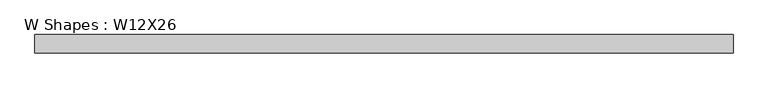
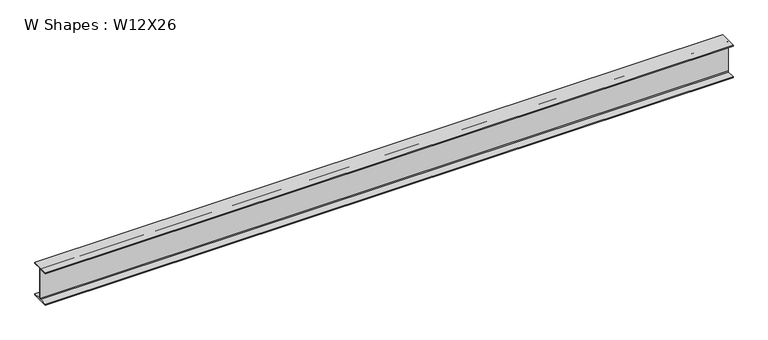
"""IFC4 building model written with IfcOpenShell, lengths in millimetres: beam geometry, W Shapes : W12X26."""

from ifc_helpers import new_model, si_unit, point, frame, frame_2d, origin, place, context, project, spatial, polyline, circle_curve, trimmed, segment, composite_curve, outline, extrude, source, transform, mapped, element, save


def w_shapes_w12x26_24b1e7e8(model_context):
    return source(origin(), model_context, "Body", "SweptSolid", [
        extrude(outline(composite_curve([segment(polyline([(82.423, -145.288), (82.423, -154.94), (-82.423, -154.94), (-82.423, -145.288), (-10.541, -145.288)]), True, "CONTINUOUS"), segment(trimmed(circle_curve(frame_2d((-10.541, -137.668)), 7.62), [point((-10.541, -145.288))], [point((-2.921, -137.668))], True, "CARTESIAN"), True, "CONTINUOUS"), segment(polyline([(-2.921, -137.668), (-2.921, 137.668)]), True, "CONTINUOUS"), segment(trimmed(circle_curve(frame_2d((-10.541, 137.668)), 7.62), [point((-2.921, 137.668))], [point((-10.541, 145.288))], True, "CARTESIAN"), True, "CONTINUOUS"), segment(polyline([(-10.541, 145.288), (-82.423, 145.288), (-82.423, 154.94), (82.423, 154.94), (82.423, 145.288), (10.541, 145.288)]), True, "CONTINUOUS"), segment(trimmed(circle_curve(frame_2d((10.541, 137.668)), 7.62), [point((10.541, 145.288))], [point((2.921, 137.668))], True, "CARTESIAN"), True, "CONTINUOUS"), segment(polyline([(2.921, 137.668), (2.921, -137.668)]), True, "CONTINUOUS"), segment(trimmed(circle_curve(frame_2d((10.541, -137.668)), 7.62), [point((2.921, -137.668))], [point((10.541, -145.288))], True, "CARTESIAN"), True, "CONTINUOUS"), segment(polyline([(10.541, -145.288), (82.423, -145.288)]), True, "CONTINUOUS")], self_intersect=False)), frame((-3113.2014067, 0.0, 0.0), z_axis=(1.0, 0.0, 0.0), x_axis=(0.0, 1.0, 0.0)), (0.0, 0.0, 1.0), 6209.8237588),
    ])


if __name__ == "__main__":
    model = new_model("IFC4")
    model_context = context("Model", 3, world=origin())
    ifc_project = project(units=[si_unit("LENGTHUNIT", "METRE", prefix="MILLI")], contexts=[model_context])
    site = spatial("IfcSite", under=ifc_project)
    building = spatial("IfcBuilding", under=site)
    placement = place(None, origin())
    w_shapes_w12x26_shape = w_shapes_w12x26_24b1e7e8(model_context)
    element("IfcBeam", 1, ObjectType="W Shapes : W12X26", at=placement, inside=building, context=model_context, shape_type="MappedRepresentation", body=[
        mapped(w_shapes_w12x26_shape, transform((0.0, 0.0, 0.0), x_axis=(1.0, 0.0, 0.0), y_axis=(0.0, 1.0, 0.0), z_axis=(0.0, 0.0, 1.0))),
    ])
    save(model, "model.ifc")
